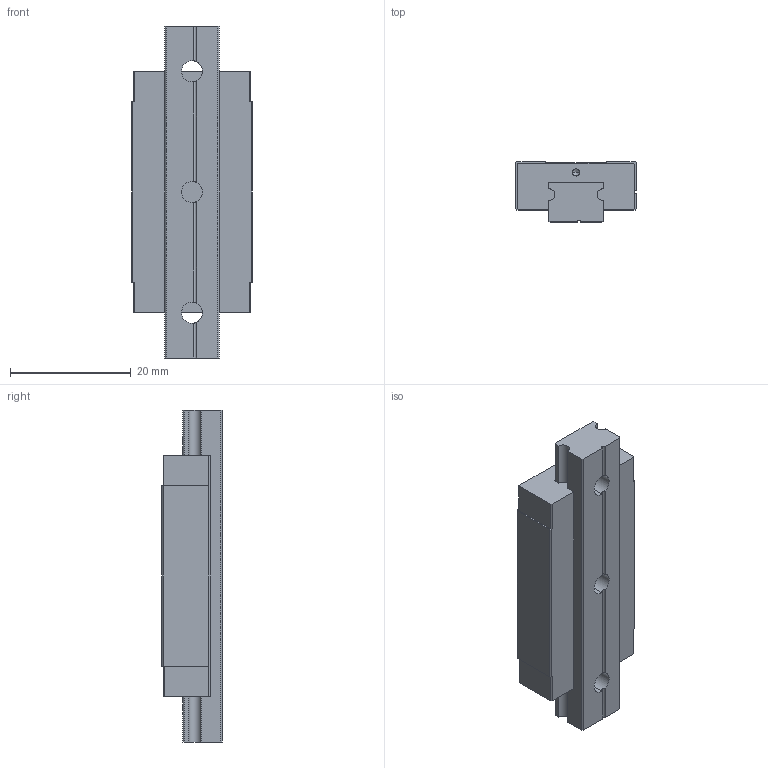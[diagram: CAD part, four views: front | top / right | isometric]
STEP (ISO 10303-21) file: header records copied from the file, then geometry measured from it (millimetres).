
FILE_DESCRIPTION (( 'STEP AP214' ), '1' );
FILE_NAME ('2.1061 Lineaarikelkka MGN9H.STEP', '2025-09-19T06:52:27', ( '' ), ( '' ), 'SwSTEP 2.0', 'SolidWorks 2025', '' );
FILE_SCHEMA (( 'AUTOMOTIVE_DESIGN' ));
Length unit declared in the file: millimetre
Products named in the file (1): 2.1061 Lineaarikelkka MGN9H
Bounding box: 20 x 10 x 55 mm (x, y, z)
Volume: 7310.1 mm3; surface area: 5213.9 mm2
Topology: 2 solids, 2 shells, 102 faces, 278 edges, 174 vertices
Faces by surface type: plane 54, cylinder 36, cone 12
Entity records: 4474 total; most frequent: CARTESIAN_POINT 741, DIRECTION 538, ORIENTED_EDGE 532, EDGE_CURVE 266, LINE 188, VECTOR 188, AXIS2_PLACEMENT_3D 175, VERTEX_POINT 174
